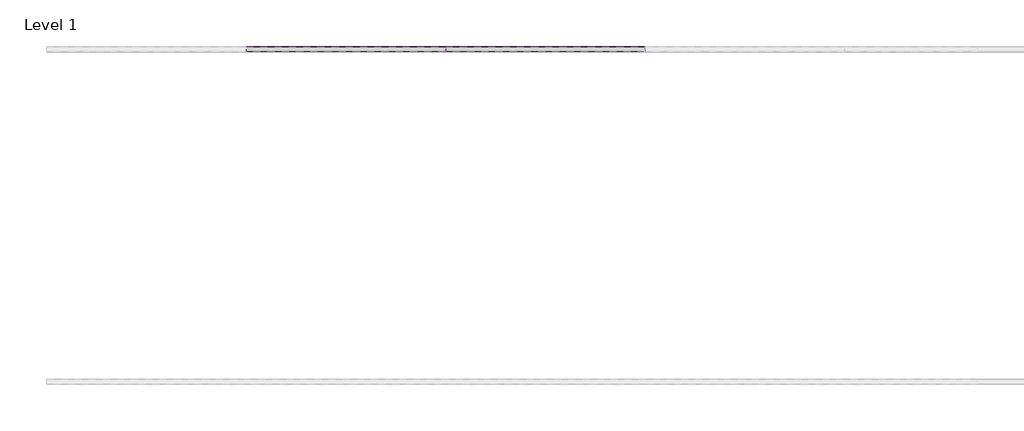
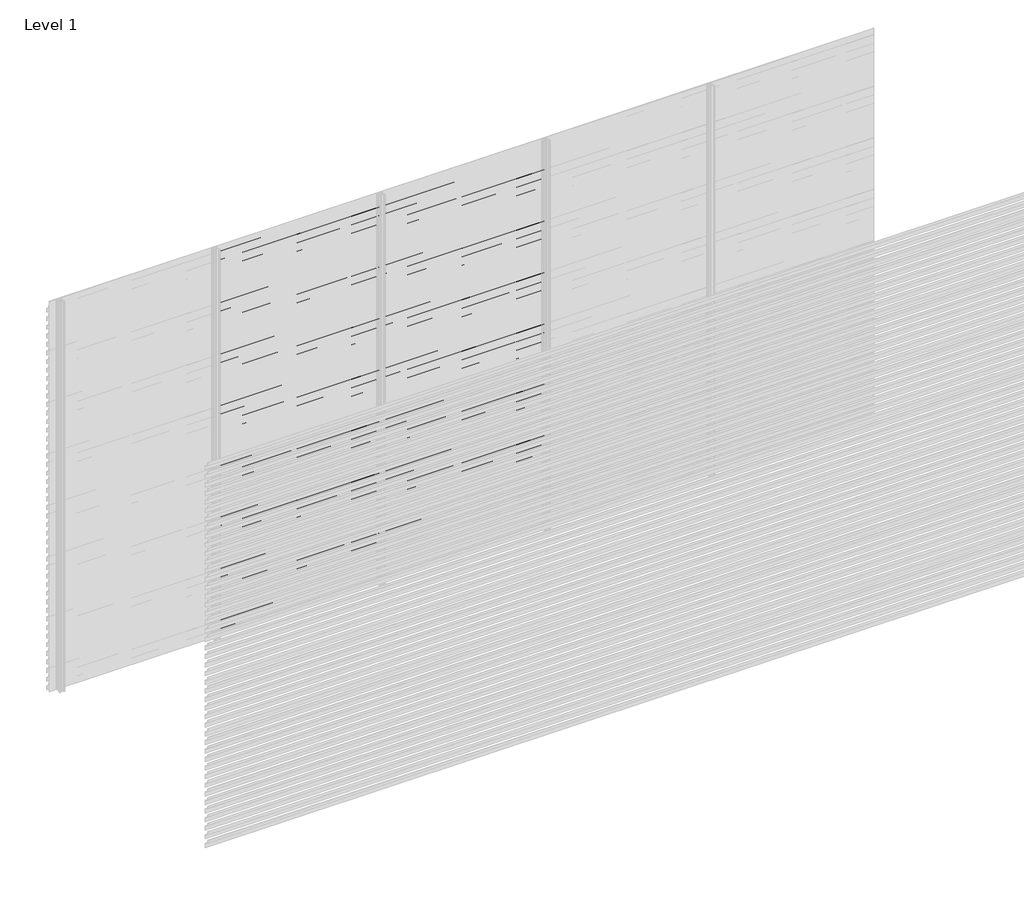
# One storey, part 56 of 540: 85 proxies.
"""IFC4 building model written with IfcOpenShell, lengths in millimetres."""

from ifc_helpers import new_model, si_unit, frame, origin, place, context, project, spatial, polyline, outline, extrude, element, save

model = new_model("IFC4")

# Units and contexts
model_context = context("Model", 3, world=origin())
ifc_project = project(units=[si_unit("LENGTHUNIT", "METRE", prefix="MILLI")], contexts=[model_context])

# Site, building, storey
site = spatial("IfcSite", under=ifc_project)
building = spatial("IfcBuilding", under=site)
storey = spatial("IfcBuildingStorey", under=building, Name="Level 1", Elevation=0.0)

# Proxies
placement = place(None, origin())
element("IfcBuildingElementProxy", 1, Name="Wall Sweeps", at=placement, inside=storey, context=model_context, shape_type="SweptSolid", body=[
    extrude(outline(polyline([(21552.8040136, 2930.0), (21552.8040136, 2897.0), (21551.5540136, 2897.7216933), (21551.5540136, 2929.2872415), (21521.8040136, 2950.0588647), (21521.8040136, 2970.0), (21523.0540136, 2970.0), (21523.0540136, 2950.7716232), (21552.8040136, 2930.0)])), frame((46166.6208097, 0.0, 0.0), z_axis=(1.0, 0.0, 0.0), x_axis=(0.0, 1.0, 0.0)), (0.0, 0.0, 1.0), 1200.0),
])
element("IfcBuildingElementProxy", 2, Name="Wall Sweeps", at=placement, inside=storey, context=model_context, shape_type="SweptSolid", body=[
    extrude(outline(polyline([(21552.8040136, 2864.0), (21552.8040136, 2831.0), (21551.5540136, 2831.7216933), (21551.5540136, 2863.2872415), (21521.8040136, 2884.0588647), (21521.8040136, 2904.0), (21523.0540136, 2904.0), (21523.0540136, 2884.7716232), (21552.8040136, 2864.0)])), frame((46166.6208097, 0.0, 0.0), z_axis=(1.0, 0.0, 0.0), x_axis=(0.0, 1.0, 0.0)), (0.0, 0.0, 1.0), 1200.0),
])
element("IfcBuildingElementProxy", 3, Name="Wall Sweeps", at=placement, inside=storey, context=model_context, shape_type="SweptSolid", body=[
    extrude(outline(polyline([(21552.8040136, 2798.0), (21552.8040136, 2765.0), (21551.5540136, 2765.7216933), (21551.5540136, 2797.2872415), (21521.8040136, 2818.0588647), (21521.8040136, 2838.0), (21523.0540136, 2838.0), (21523.0540136, 2818.7716232), (21552.8040136, 2798.0)])), frame((46166.6208097, 0.0, 0.0), z_axis=(1.0, 0.0, 0.0), x_axis=(0.0, 1.0, 0.0)), (0.0, 0.0, 1.0), 1200.0),
])
element("IfcBuildingElementProxy", 4, Name="Wall Sweeps", at=placement, inside=storey, context=model_context, shape_type="SweptSolid", body=[
    extrude(outline(polyline([(21552.8040136, 2732.0), (21552.8040136, 2699.0), (21551.5540136, 2699.7216933), (21551.5540136, 2731.2872415), (21521.8040136, 2752.0588647), (21521.8040136, 2772.0), (21523.0540136, 2772.0), (21523.0540136, 2752.7716232), (21552.8040136, 2732.0)])), frame((46166.6208097, 0.0, 0.0), z_axis=(1.0, 0.0, 0.0), x_axis=(0.0, 1.0, 0.0)), (0.0, 0.0, 1.0), 1200.0),
])
element("IfcBuildingElementProxy", 5, Name="Wall Sweeps", at=placement, inside=storey, context=model_context, shape_type="SweptSolid", body=[
    extrude(outline(polyline([(21552.8040136, 2666.0), (21552.8040136, 2633.0), (21551.5540136, 2633.7216933), (21551.5540136, 2665.2872415), (21521.8040136, 2686.0588647), (21521.8040136, 2706.0), (21523.0540136, 2706.0), (21523.0540136, 2686.7716232), (21552.8040136, 2666.0)])), frame((46166.6208097, 0.0, 0.0), z_axis=(1.0, 0.0, 0.0), x_axis=(0.0, 1.0, 0.0)), (0.0, 0.0, 1.0), 1200.0),
])
element("IfcBuildingElementProxy", 6, Name="Wall Sweeps", at=placement, inside=storey, context=model_context, shape_type="SweptSolid", body=[
    extrude(outline(polyline([(21552.8040136, 2600.0), (21552.8040136, 2567.0), (21551.5540136, 2567.7216933), (21551.5540136, 2599.2872415), (21521.8040136, 2620.0588647), (21521.8040136, 2640.0), (21523.0540136, 2640.0), (21523.0540136, 2620.7716232), (21552.8040136, 2600.0)])), frame((46166.6208097, 0.0, 0.0), z_axis=(1.0, 0.0, 0.0), x_axis=(0.0, 1.0, 0.0)), (0.0, 0.0, 1.0), 1200.0),
])
element("IfcBuildingElementProxy", 7, Name="Wall Sweeps", at=placement, inside=storey, context=model_context, shape_type="SweptSolid", body=[
    extrude(outline(polyline([(21552.8040136, 2534.0), (21552.8040136, 2501.0), (21551.5540136, 2501.7216933), (21551.5540136, 2533.2872415), (21521.8040136, 2554.0588647), (21521.8040136, 2574.0), (21523.0540136, 2574.0), (21523.0540136, 2554.7716232), (21552.8040136, 2534.0)])), frame((46166.6208097, 0.0, 0.0), z_axis=(1.0, 0.0, 0.0), x_axis=(0.0, 1.0, 0.0)), (0.0, 0.0, 1.0), 1200.0),
])
element("IfcBuildingElementProxy", 8, Name="Wall Sweeps", at=placement, inside=storey, context=model_context, shape_type="SweptSolid", body=[
    extrude(outline(polyline([(21552.8040136, 2468.0), (21552.8040136, 2435.0), (21551.5540136, 2435.7216933), (21551.5540136, 2467.2872415), (21521.8040136, 2488.0588647), (21521.8040136, 2508.0), (21523.0540136, 2508.0), (21523.0540136, 2488.7716232), (21552.8040136, 2468.0)])), frame((46166.6208097, 0.0, 0.0), z_axis=(1.0, 0.0, 0.0), x_axis=(0.0, 1.0, 0.0)), (0.0, 0.0, 1.0), 1200.0),
])
element("IfcBuildingElementProxy", 9, Name="Wall Sweeps", at=placement, inside=storey, context=model_context, shape_type="SweptSolid", body=[
    extrude(outline(polyline([(21552.8040136, 2402.0), (21552.8040136, 2369.0), (21551.5540136, 2369.7216933), (21551.5540136, 2401.2872415), (21521.8040136, 2422.0588647), (21521.8040136, 2442.0), (21523.0540136, 2442.0), (21523.0540136, 2422.7716232), (21552.8040136, 2402.0)])), frame((46166.6208097, 0.0, 0.0), z_axis=(1.0, 0.0, 0.0), x_axis=(0.0, 1.0, 0.0)), (0.0, 0.0, 1.0), 1200.0),
])
element("IfcBuildingElementProxy", 10, Name="Wall Sweeps", at=placement, inside=storey, context=model_context, shape_type="SweptSolid", body=[
    extrude(outline(polyline([(21552.8040136, 2336.0), (21552.8040136, 2303.0), (21551.5540136, 2303.7216933), (21551.5540136, 2335.2872415), (21521.8040136, 2356.0588647), (21521.8040136, 2376.0), (21523.0540136, 2376.0), (21523.0540136, 2356.7716232), (21552.8040136, 2336.0)])), frame((46166.6208097, 0.0, 0.0), z_axis=(1.0, 0.0, 0.0), x_axis=(0.0, 1.0, 0.0)), (0.0, 0.0, 1.0), 1200.0),
])
element("IfcBuildingElementProxy", 11, Name="Wall Sweeps", at=placement, inside=storey, context=model_context, shape_type="SweptSolid", body=[
    extrude(outline(polyline([(21552.8040136, 2270.0), (21552.8040136, 2237.0), (21551.5540136, 2237.7216933), (21551.5540136, 2269.2872415), (21521.8040136, 2290.0588647), (21521.8040136, 2310.0), (21523.0540136, 2310.0), (21523.0540136, 2290.7716232), (21552.8040136, 2270.0)])), frame((46166.6208097, 0.0, 0.0), z_axis=(1.0, 0.0, 0.0), x_axis=(0.0, 1.0, 0.0)), (0.0, 0.0, 1.0), 1200.0),
])
element("IfcBuildingElementProxy", 12, Name="Wall Sweeps", at=placement, inside=storey, context=model_context, shape_type="SweptSolid", body=[
    extrude(outline(polyline([(21552.8040136, 2204.0), (21552.8040136, 2171.0), (21551.5540136, 2171.7216933), (21551.5540136, 2203.2872415), (21521.8040136, 2224.0588647), (21521.8040136, 2244.0), (21523.0540136, 2244.0), (21523.0540136, 2224.7716232), (21552.8040136, 2204.0)])), frame((46166.6208097, 0.0, 0.0), z_axis=(1.0, 0.0, 0.0), x_axis=(0.0, 1.0, 0.0)), (0.0, 0.0, 1.0), 1200.0),
])
element("IfcBuildingElementProxy", 13, Name="Wall Sweeps", at=placement, inside=storey, context=model_context, shape_type="SweptSolid", body=[
    extrude(outline(polyline([(21552.8040136, 2138.0), (21552.8040136, 2105.0), (21551.5540136, 2105.7216933), (21551.5540136, 2137.2872415), (21521.8040136, 2158.0588647), (21521.8040136, 2178.0), (21523.0540136, 2178.0), (21523.0540136, 2158.7716232), (21552.8040136, 2138.0)])), frame((46166.6208097, 0.0, 0.0), z_axis=(1.0, 0.0, 0.0), x_axis=(0.0, 1.0, 0.0)), (0.0, 0.0, 1.0), 1200.0),
])
element("IfcBuildingElementProxy", 14, Name="Wall Sweeps", at=placement, inside=storey, context=model_context, shape_type="SweptSolid", body=[
    extrude(outline(polyline([(21552.8040136, 2072.0), (21552.8040136, 2039.0), (21551.5540136, 2039.7216933), (21551.5540136, 2071.2872415), (21521.8040136, 2092.0588647), (21521.8040136, 2112.0), (21523.0540136, 2112.0), (21523.0540136, 2092.7716232), (21552.8040136, 2072.0)])), frame((46166.6208097, 0.0, 0.0), z_axis=(1.0, 0.0, 0.0), x_axis=(0.0, 1.0, 0.0)), (0.0, 0.0, 1.0), 1200.0),
])
element("IfcBuildingElementProxy", 15, Name="Wall Sweeps", at=placement, inside=storey, context=model_context, shape_type="SweptSolid", body=[
    extrude(outline(polyline([(21552.8040136, 2006.0), (21552.8040136, 1973.0), (21551.5540136, 1973.7216933), (21551.5540136, 2005.2872415), (21521.8040136, 2026.0588647), (21521.8040136, 2046.0), (21523.0540136, 2046.0), (21523.0540136, 2026.7716232), (21552.8040136, 2006.0)])), frame((46166.6208097, 0.0, 0.0), z_axis=(1.0, 0.0, 0.0), x_axis=(0.0, 1.0, 0.0)), (0.0, 0.0, 1.0), 1200.0),
])
element("IfcBuildingElementProxy", 16, Name="Wall Sweeps", at=placement, inside=storey, context=model_context, shape_type="SweptSolid", body=[
    extrude(outline(polyline([(21552.8040136, 1940.0), (21552.8040136, 1907.0), (21551.5540136, 1907.7216933), (21551.5540136, 1939.2872415), (21521.8040136, 1960.0588647), (21521.8040136, 1980.0), (21523.0540136, 1980.0), (21523.0540136, 1960.7716232), (21552.8040136, 1940.0)])), frame((46166.6208097, 0.0, 0.0), z_axis=(1.0, 0.0, 0.0), x_axis=(0.0, 1.0, 0.0)), (0.0, 0.0, 1.0), 1200.0),
])
element("IfcBuildingElementProxy", 17, Name="Wall Sweeps", at=placement, inside=storey, context=model_context, shape_type="SweptSolid", body=[
    extrude(outline(polyline([(21552.8040136, 1874.0), (21552.8040136, 1841.0), (21551.5540136, 1841.7216933), (21551.5540136, 1873.2872415), (21521.8040136, 1894.0588647), (21521.8040136, 1914.0), (21523.0540136, 1914.0), (21523.0540136, 1894.7716232), (21552.8040136, 1874.0)])), frame((46166.6208097, 0.0, 0.0), z_axis=(1.0, 0.0, 0.0), x_axis=(0.0, 1.0, 0.0)), (0.0, 0.0, 1.0), 1200.0),
])
element("IfcBuildingElementProxy", 18, Name="Wall Sweeps", at=placement, inside=storey, context=model_context, shape_type="SweptSolid", body=[
    extrude(outline(polyline([(21552.8040136, 1808.0), (21552.8040136, 1775.0), (21551.5540136, 1775.7216933), (21551.5540136, 1807.2872415), (21521.8040136, 1828.0588647), (21521.8040136, 1848.0), (21523.0540136, 1848.0), (21523.0540136, 1828.7716232), (21552.8040136, 1808.0)])), frame((46166.6208097, 0.0, 0.0), z_axis=(1.0, 0.0, 0.0), x_axis=(0.0, 1.0, 0.0)), (0.0, 0.0, 1.0), 1200.0),
])
element("IfcBuildingElementProxy", 19, Name="Wall Sweeps", at=placement, inside=storey, context=model_context, shape_type="SweptSolid", body=[
    extrude(outline(polyline([(21552.8040136, 1742.0), (21552.8040136, 1709.0), (21551.5540136, 1709.7216933), (21551.5540136, 1741.2872415), (21521.8040136, 1762.0588647), (21521.8040136, 1782.0), (21523.0540136, 1782.0), (21523.0540136, 1762.7716232), (21552.8040136, 1742.0)])), frame((46166.6208097, 0.0, 0.0), z_axis=(1.0, 0.0, 0.0), x_axis=(0.0, 1.0, 0.0)), (0.0, 0.0, 1.0), 1200.0),
])
element("IfcBuildingElementProxy", 20, Name="Wall Sweeps", at=placement, inside=storey, context=model_context, shape_type="SweptSolid", body=[
    extrude(outline(polyline([(21552.8040136, 1676.0), (21552.8040136, 1643.0), (21551.5540136, 1643.7216933), (21551.5540136, 1675.2872415), (21521.8040136, 1696.0588647), (21521.8040136, 1716.0), (21523.0540136, 1716.0), (21523.0540136, 1696.7716232), (21552.8040136, 1676.0)])), frame((46166.6208097, 0.0, 0.0), z_axis=(1.0, 0.0, 0.0), x_axis=(0.0, 1.0, 0.0)), (0.0, 0.0, 1.0), 1200.0),
])
element("IfcBuildingElementProxy", 21, Name="Wall Sweeps", at=placement, inside=storey, context=model_context, shape_type="SweptSolid", body=[
    extrude(outline(polyline([(21552.8040136, 1610.0), (21552.8040136, 1577.0), (21551.5540136, 1577.7216933), (21551.5540136, 1609.2872415), (21521.8040136, 1630.0588647), (21521.8040136, 1650.0), (21523.0540136, 1650.0), (21523.0540136, 1630.7716232), (21552.8040136, 1610.0)])), frame((46166.6208097, 0.0, 0.0), z_axis=(1.0, 0.0, 0.0), x_axis=(0.0, 1.0, 0.0)), (0.0, 0.0, 1.0), 1200.0),
])
element("IfcBuildingElementProxy", 22, Name="Wall Sweeps", at=placement, inside=storey, context=model_context, shape_type="SweptSolid", body=[
    extrude(outline(polyline([(21552.8040136, 1544.0), (21552.8040136, 1511.0), (21551.5540136, 1511.7216933), (21551.5540136, 1543.2872415), (21521.8040136, 1564.0588647), (21521.8040136, 1584.0), (21523.0540136, 1584.0), (21523.0540136, 1564.7716232), (21552.8040136, 1544.0)])), frame((46166.6208097, 0.0, 0.0), z_axis=(1.0, 0.0, 0.0), x_axis=(0.0, 1.0, 0.0)), (0.0, 0.0, 1.0), 1200.0),
])
element("IfcBuildingElementProxy", 23, Name="Wall Sweeps", at=placement, inside=storey, context=model_context, shape_type="SweptSolid", body=[
    extrude(outline(polyline([(21552.8040136, 1478.0), (21552.8040136, 1445.0), (21551.5540136, 1445.7216933), (21551.5540136, 1477.2872415), (21521.8040136, 1498.0588647), (21521.8040136, 1518.0), (21523.0540136, 1518.0), (21523.0540136, 1498.7716232), (21552.8040136, 1478.0)])), frame((46166.6208097, 0.0, 0.0), z_axis=(1.0, 0.0, 0.0), x_axis=(0.0, 1.0, 0.0)), (0.0, 0.0, 1.0), 1200.0),
])
element("IfcBuildingElementProxy", 24, Name="Wall Sweeps", at=placement, inside=storey, context=model_context, shape_type="SweptSolid", body=[
    extrude(outline(polyline([(21552.8040136, 1412.0), (21552.8040136, 1379.0), (21551.5540136, 1379.7216933), (21551.5540136, 1411.2872415), (21521.8040136, 1432.0588647), (21521.8040136, 1452.0), (21523.0540136, 1452.0), (21523.0540136, 1432.7716232), (21552.8040136, 1412.0)])), frame((46166.6208097, 0.0, 0.0), z_axis=(1.0, 0.0, 0.0), x_axis=(0.0, 1.0, 0.0)), (0.0, 0.0, 1.0), 1200.0),
])
element("IfcBuildingElementProxy", 25, Name="Wall Sweeps", at=placement, inside=storey, context=model_context, shape_type="SweptSolid", body=[
    extrude(outline(polyline([(21552.8040136, 1346.0), (21552.8040136, 1313.0), (21551.5540136, 1313.7216933), (21551.5540136, 1345.2872415), (21521.8040136, 1366.0588647), (21521.8040136, 1386.0), (21523.0540136, 1386.0), (21523.0540136, 1366.7716232), (21552.8040136, 1346.0)])), frame((46166.6208097, 0.0, 0.0), z_axis=(1.0, 0.0, 0.0), x_axis=(0.0, 1.0, 0.0)), (0.0, 0.0, 1.0), 1200.0),
])
element("IfcBuildingElementProxy", 26, Name="Wall Sweeps", at=placement, inside=storey, context=model_context, shape_type="SweptSolid", body=[
    extrude(outline(polyline([(21552.8040136, 1280.0), (21552.8040136, 1247.0), (21551.5540136, 1247.7216933), (21551.5540136, 1279.2872415), (21521.8040136, 1300.0588647), (21521.8040136, 1320.0), (21523.0540136, 1320.0), (21523.0540136, 1300.7716232), (21552.8040136, 1280.0)])), frame((46166.6208097, 0.0, 0.0), z_axis=(1.0, 0.0, 0.0), x_axis=(0.0, 1.0, 0.0)), (0.0, 0.0, 1.0), 1200.0),
])
element("IfcBuildingElementProxy", 27, Name="Wall Sweeps", at=placement, inside=storey, context=model_context, shape_type="SweptSolid", body=[
    extrude(outline(polyline([(21552.8040136, 1214.0), (21552.8040136, 1181.0), (21551.5540136, 1181.7216933), (21551.5540136, 1213.2872415), (21521.8040136, 1234.0588647), (21521.8040136, 1254.0), (21523.0540136, 1254.0), (21523.0540136, 1234.7716232), (21552.8040136, 1214.0)])), frame((46166.6208097, 0.0, 0.0), z_axis=(1.0, 0.0, 0.0), x_axis=(0.0, 1.0, 0.0)), (0.0, 0.0, 1.0), 1200.0),
])
element("IfcBuildingElementProxy", 28, Name="Wall Sweeps", at=placement, inside=storey, context=model_context, shape_type="SweptSolid", body=[
    extrude(outline(polyline([(21552.8040136, 1148.0), (21552.8040136, 1115.0), (21551.5540136, 1115.7216933), (21551.5540136, 1147.2872415), (21521.8040136, 1168.0588647), (21521.8040136, 1188.0), (21523.0540136, 1188.0), (21523.0540136, 1168.7716232), (21552.8040136, 1148.0)])), frame((46166.6208097, 0.0, 0.0), z_axis=(1.0, 0.0, 0.0), x_axis=(0.0, 1.0, 0.0)), (0.0, 0.0, 1.0), 1200.0),
])
element("IfcBuildingElementProxy", 29, Name="Wall Sweeps", at=placement, inside=storey, context=model_context, shape_type="SweptSolid", body=[
    extrude(outline(polyline([(21552.8040136, 1082.0), (21552.8040136, 1049.0), (21551.5540136, 1049.7216933), (21551.5540136, 1081.2872415), (21521.8040136, 1102.0588647), (21521.8040136, 1122.0), (21523.0540136, 1122.0), (21523.0540136, 1102.7716232), (21552.8040136, 1082.0)])), frame((46166.6208097, 0.0, 0.0), z_axis=(1.0, 0.0, 0.0), x_axis=(0.0, 1.0, 0.0)), (0.0, 0.0, 1.0), 1200.0),
])
element("IfcBuildingElementProxy", 30, Name="Wall Sweeps", at=placement, inside=storey, context=model_context, shape_type="SweptSolid", body=[
    extrude(outline(polyline([(21552.8040136, 1016.0), (21552.8040136, 983.0), (21551.5540136, 983.7216933), (21551.5540136, 1015.2872415), (21521.8040136, 1036.0588647), (21521.8040136, 1056.0), (21523.0540136, 1056.0), (21523.0540136, 1036.7716232), (21552.8040136, 1016.0)])), frame((46166.6208097, 0.0, 0.0), z_axis=(1.0, 0.0, 0.0), x_axis=(0.0, 1.0, 0.0)), (0.0, 0.0, 1.0), 1200.0),
])
element("IfcBuildingElementProxy", 31, Name="Wall Sweeps", at=placement, inside=storey, context=model_context, shape_type="SweptSolid", body=[
    extrude(outline(polyline([(21552.8040136, 950.0), (21552.8040136, 917.0), (21551.5540136, 917.7216933), (21551.5540136, 949.2872415), (21521.8040136, 970.0588647), (21521.8040136, 990.0), (21523.0540136, 990.0), (21523.0540136, 970.7716232), (21552.8040136, 950.0)])), frame((46166.6208097, 0.0, 0.0), z_axis=(1.0, 0.0, 0.0), x_axis=(0.0, 1.0, 0.0)), (0.0, 0.0, 1.0), 1200.0),
])
element("IfcBuildingElementProxy", 32, Name="Wall Sweeps", at=placement, inside=storey, context=model_context, shape_type="SweptSolid", body=[
    extrude(outline(polyline([(21552.8040136, 884.0), (21552.8040136, 851.0), (21551.5540136, 851.7216933), (21551.5540136, 883.2872415), (21521.8040136, 904.0588647), (21521.8040136, 924.0), (21523.0540136, 924.0), (21523.0540136, 904.7716232), (21552.8040136, 884.0)])), frame((46166.6208097, 0.0, 0.0), z_axis=(1.0, 0.0, 0.0), x_axis=(0.0, 1.0, 0.0)), (0.0, 0.0, 1.0), 1200.0),
])
element("IfcBuildingElementProxy", 33, Name="Wall Sweeps", at=placement, inside=storey, context=model_context, shape_type="SweptSolid", body=[
    extrude(outline(polyline([(21552.8040136, 818.0), (21552.8040136, 785.0), (21551.5540136, 785.7216933), (21551.5540136, 817.2872415), (21521.8040136, 838.0588647), (21521.8040136, 858.0), (21523.0540136, 858.0), (21523.0540136, 838.7716232), (21552.8040136, 818.0)])), frame((46166.6208097, 0.0, 0.0), z_axis=(1.0, 0.0, 0.0), x_axis=(0.0, 1.0, 0.0)), (0.0, 0.0, 1.0), 1200.0),
])
element("IfcBuildingElementProxy", 34, Name="Wall Sweeps", at=placement, inside=storey, context=model_context, shape_type="SweptSolid", body=[
    extrude(outline(polyline([(21552.8040136, 752.0), (21552.8040136, 719.0), (21551.5540136, 719.7216933), (21551.5540136, 751.2872415), (21521.8040136, 772.0588647), (21521.8040136, 792.0), (21523.0540136, 792.0), (21523.0540136, 772.7716232), (21552.8040136, 752.0)])), frame((46166.6208097, 0.0, 0.0), z_axis=(1.0, 0.0, 0.0), x_axis=(0.0, 1.0, 0.0)), (0.0, 0.0, 1.0), 1200.0),
])
element("IfcBuildingElementProxy", 35, Name="Wall Sweeps", at=placement, inside=storey, context=model_context, shape_type="SweptSolid", body=[
    extrude(outline(polyline([(21552.8040136, 686.0), (21552.8040136, 653.0), (21551.5540136, 653.7216933), (21551.5540136, 685.2872415), (21521.8040136, 706.0588647), (21521.8040136, 726.0), (21523.0540136, 726.0), (21523.0540136, 706.7716232), (21552.8040136, 686.0)])), frame((46166.6208097, 0.0, 0.0), z_axis=(1.0, 0.0, 0.0), x_axis=(0.0, 1.0, 0.0)), (0.0, 0.0, 1.0), 1200.0),
])
element("IfcBuildingElementProxy", 36, Name="Wall Sweeps", at=placement, inside=storey, context=model_context, shape_type="SweptSolid", body=[
    extrude(outline(polyline([(21552.8040136, 620.0), (21552.8040136, 587.0), (21551.5540136, 587.7216933), (21551.5540136, 619.2872415), (21521.8040136, 640.0588647), (21521.8040136, 660.0), (21523.0540136, 660.0), (21523.0540136, 640.7716232), (21552.8040136, 620.0)])), frame((46166.6208097, 0.0, 0.0), z_axis=(1.0, 0.0, 0.0), x_axis=(0.0, 1.0, 0.0)), (0.0, 0.0, 1.0), 1200.0),
])
element("IfcBuildingElementProxy", 37, Name="Wall Sweeps", at=placement, inside=storey, context=model_context, shape_type="SweptSolid", body=[
    extrude(outline(polyline([(21552.8040136, 554.0), (21552.8040136, 521.0), (21551.5540136, 521.7216933), (21551.5540136, 553.2872415), (21521.8040136, 574.0588647), (21521.8040136, 594.0), (21523.0540136, 594.0), (21523.0540136, 574.7716232), (21552.8040136, 554.0)])), frame((46166.6208097, 0.0, 0.0), z_axis=(1.0, 0.0, 0.0), x_axis=(0.0, 1.0, 0.0)), (0.0, 0.0, 1.0), 1200.0),
])
element("IfcBuildingElementProxy", 38, Name="Wall Sweeps", at=placement, inside=storey, context=model_context, shape_type="SweptSolid", body=[
    extrude(outline(polyline([(21552.8040136, 488.0), (21552.8040136, 455.0), (21551.5540136, 455.7216933), (21551.5540136, 487.2872415), (21521.8040136, 508.0588647), (21521.8040136, 528.0), (21523.0540136, 528.0), (21523.0540136, 508.7716232), (21552.8040136, 488.0)])), frame((46166.6208097, 0.0, 0.0), z_axis=(1.0, 0.0, 0.0), x_axis=(0.0, 1.0, 0.0)), (0.0, 0.0, 1.0), 1200.0),
])
element("IfcBuildingElementProxy", 39, Name="Wall Sweeps", at=placement, inside=storey, context=model_context, shape_type="SweptSolid", body=[
    extrude(outline(polyline([(21552.8040136, 422.0), (21552.8040136, 389.0), (21551.5540136, 389.7216933), (21551.5540136, 421.2872415), (21521.8040136, 442.0588647), (21521.8040136, 462.0), (21523.0540136, 462.0), (21523.0540136, 442.7716232), (21552.8040136, 422.0)])), frame((46166.6208097, 0.0, 0.0), z_axis=(1.0, 0.0, 0.0), x_axis=(0.0, 1.0, 0.0)), (0.0, 0.0, 1.0), 1200.0),
])
element("IfcBuildingElementProxy", 40, Name="Wall Sweeps", at=placement, inside=storey, context=model_context, shape_type="SweptSolid", body=[
    extrude(outline(polyline([(21552.8040136, 356.0), (21552.8040136, 323.0), (21551.5540136, 323.7216933), (21551.5540136, 355.2872415), (21521.8040136, 376.0588647), (21521.8040136, 396.0), (21523.0540136, 396.0), (21523.0540136, 376.7716232), (21552.8040136, 356.0)])), frame((46166.6208097, 0.0, 0.0), z_axis=(1.0, 0.0, 0.0), x_axis=(0.0, 1.0, 0.0)), (0.0, 0.0, 1.0), 1200.0),
])
element("IfcBuildingElementProxy", 41, Name="Wall Sweeps", at=placement, inside=storey, context=model_context, shape_type="SweptSolid", body=[
    extrude(outline(polyline([(21552.8040136, 290.0), (21552.8040136, 257.0), (21551.5540136, 257.7216933), (21551.5540136, 289.2872415), (21521.8040136, 310.0588647), (21521.8040136, 330.0), (21523.0540136, 330.0), (21523.0540136, 310.7716232), (21552.8040136, 290.0)])), frame((46166.6208097, 0.0, 0.0), z_axis=(1.0, 0.0, 0.0), x_axis=(0.0, 1.0, 0.0)), (0.0, 0.0, 1.0), 1200.0),
])
element("IfcBuildingElementProxy", 42, Name="Wall Sweeps", at=placement, inside=storey, context=model_context, shape_type="SweptSolid", body=[
    extrude(outline(polyline([(21552.8040136, 224.0), (21552.8040136, 191.0), (21551.5540136, 191.7216933), (21551.5540136, 223.2872415), (21521.8040136, 244.0588647), (21521.8040136, 264.0), (21523.0540136, 264.0), (21523.0540136, 244.7716232), (21552.8040136, 224.0)])), frame((46166.6208097, 0.0, 0.0), z_axis=(1.0, 0.0, 0.0), x_axis=(0.0, 1.0, 0.0)), (0.0, 0.0, 1.0), 1200.0),
])
element("IfcBuildingElementProxy", 43, Name="Wall Sweeps", at=placement, inside=storey, context=model_context, shape_type="SweptSolid", body=[
    extrude(outline(polyline([(21552.8040136, 158.0), (21552.8040136, 125.0), (21551.5540136, 125.7216933), (21551.5540136, 157.2872415), (21521.8040136, 178.0588647), (21521.8040136, 198.0), (21523.0540136, 198.0), (21523.0540136, 178.7716232), (21552.8040136, 158.0)])), frame((46166.6208097, 0.0, 0.0), z_axis=(1.0, 0.0, 0.0), x_axis=(0.0, 1.0, 0.0)), (0.0, 0.0, 1.0), 1200.0),
])
element("IfcBuildingElementProxy", 44, Name="Wall Sweeps", at=placement, inside=storey, context=model_context, shape_type="SweptSolid", body=[
    extrude(outline(polyline([(21552.8040136, 92.0), (21552.8040136, 59.0), (21551.5540136, 59.7216933), (21551.5540136, 91.2872415), (21521.8040136, 112.0588647), (21521.8040136, 132.0), (21523.0540136, 132.0), (21523.0540136, 112.7716232), (21552.8040136, 92.0)])), frame((46166.6208097, 0.0, 0.0), z_axis=(1.0, 0.0, 0.0), x_axis=(0.0, 1.0, 0.0)), (0.0, 0.0, 1.0), 1200.0),
])
element("IfcBuildingElementProxy", 45, Name="Wall Sweeps", at=placement, inside=storey, context=model_context, shape_type="SweptSolid", body=[
    extrude(outline(polyline([(21552.8040136, 26.0), (21552.8040136, -7.0), (21551.5540136, -6.2783067), (21551.5540136, 25.2872415), (21521.8040136, 46.0588647), (21521.8040136, 66.0), (21523.0540136, 66.0), (21523.0540136, 46.7716232), (21552.8040136, 26.0)])), frame((46166.6208097, 0.0, 0.0), z_axis=(1.0, 0.0, 0.0), x_axis=(0.0, 1.0, 0.0)), (0.0, 0.0, 1.0), 1200.0),
])
element("IfcBuildingElementProxy", 46, Name="Wall Sweeps", at=placement, inside=storey, context=model_context, shape_type="SweptSolid", body=[
    extrude(outline(polyline([(21552.8040136, 2930.0), (21552.8040136, 2897.0), (21551.5540136, 2897.7216933), (21551.5540136, 2929.2872415), (21521.8040136, 2950.0588647), (21521.8040136, 2970.0), (21523.0540136, 2970.0), (21523.0540136, 2950.7716232), (21552.8040136, 2930.0)])), frame((47366.6208097, 0.0, 0.0), z_axis=(1.0, 0.0, 0.0), x_axis=(0.0, 1.0, 0.0)), (0.0, 0.0, 1.0), 1200.0),
])
element("IfcBuildingElementProxy", 47, Name="Wall Sweeps", at=placement, inside=storey, context=model_context, shape_type="SweptSolid", body=[
    extrude(outline(polyline([(21552.8040136, 2864.0), (21552.8040136, 2831.0), (21551.5540136, 2831.7216933), (21551.5540136, 2863.2872415), (21521.8040136, 2884.0588647), (21521.8040136, 2904.0), (21523.0540136, 2904.0), (21523.0540136, 2884.7716232), (21552.8040136, 2864.0)])), frame((47366.6208097, 0.0, 0.0), z_axis=(1.0, 0.0, 0.0), x_axis=(0.0, 1.0, 0.0)), (0.0, 0.0, 1.0), 1200.0),
])
element("IfcBuildingElementProxy", 48, Name="Wall Sweeps", at=placement, inside=storey, context=model_context, shape_type="SweptSolid", body=[
    extrude(outline(polyline([(21552.8040136, 2798.0), (21552.8040136, 2765.0), (21551.5540136, 2765.7216933), (21551.5540136, 2797.2872415), (21521.8040136, 2818.0588647), (21521.8040136, 2838.0), (21523.0540136, 2838.0), (21523.0540136, 2818.7716232), (21552.8040136, 2798.0)])), frame((47366.6208097, 0.0, 0.0), z_axis=(1.0, 0.0, 0.0), x_axis=(0.0, 1.0, 0.0)), (0.0, 0.0, 1.0), 1200.0),
])
element("IfcBuildingElementProxy", 49, Name="Wall Sweeps", at=placement, inside=storey, context=model_context, shape_type="SweptSolid", body=[
    extrude(outline(polyline([(21552.8040136, 2732.0), (21552.8040136, 2699.0), (21551.5540136, 2699.7216933), (21551.5540136, 2731.2872415), (21521.8040136, 2752.0588647), (21521.8040136, 2772.0), (21523.0540136, 2772.0), (21523.0540136, 2752.7716232), (21552.8040136, 2732.0)])), frame((47366.6208097, 0.0, 0.0), z_axis=(1.0, 0.0, 0.0), x_axis=(0.0, 1.0, 0.0)), (0.0, 0.0, 1.0), 1200.0),
])
element("IfcBuildingElementProxy", 50, Name="Wall Sweeps", at=placement, inside=storey, context=model_context, shape_type="SweptSolid", body=[
    extrude(outline(polyline([(21552.8040136, 2666.0), (21552.8040136, 2633.0), (21551.5540136, 2633.7216933), (21551.5540136, 2665.2872415), (21521.8040136, 2686.0588647), (21521.8040136, 2706.0), (21523.0540136, 2706.0), (21523.0540136, 2686.7716232), (21552.8040136, 2666.0)])), frame((47366.6208097, 0.0, 0.0), z_axis=(1.0, 0.0, 0.0), x_axis=(0.0, 1.0, 0.0)), (0.0, 0.0, 1.0), 1200.0),
])
element("IfcBuildingElementProxy", 51, Name="Wall Sweeps", at=placement, inside=storey, context=model_context, shape_type="SweptSolid", body=[
    extrude(outline(polyline([(21552.8040136, 2600.0), (21552.8040136, 2567.0), (21551.5540136, 2567.7216933), (21551.5540136, 2599.2872415), (21521.8040136, 2620.0588647), (21521.8040136, 2640.0), (21523.0540136, 2640.0), (21523.0540136, 2620.7716232), (21552.8040136, 2600.0)])), frame((47366.6208097, 0.0, 0.0), z_axis=(1.0, 0.0, 0.0), x_axis=(0.0, 1.0, 0.0)), (0.0, 0.0, 1.0), 1200.0),
])
element("IfcBuildingElementProxy", 52, Name="Wall Sweeps", at=placement, inside=storey, context=model_context, shape_type="SweptSolid", body=[
    extrude(outline(polyline([(21552.8040136, 2534.0), (21552.8040136, 2501.0), (21551.5540136, 2501.7216933), (21551.5540136, 2533.2872415), (21521.8040136, 2554.0588647), (21521.8040136, 2574.0), (21523.0540136, 2574.0), (21523.0540136, 2554.7716232), (21552.8040136, 2534.0)])), frame((47366.6208097, 0.0, 0.0), z_axis=(1.0, 0.0, 0.0), x_axis=(0.0, 1.0, 0.0)), (0.0, 0.0, 1.0), 1200.0),
])
element("IfcBuildingElementProxy", 53, Name="Wall Sweeps", at=placement, inside=storey, context=model_context, shape_type="SweptSolid", body=[
    extrude(outline(polyline([(21552.8040136, 2468.0), (21552.8040136, 2435.0), (21551.5540136, 2435.7216933), (21551.5540136, 2467.2872415), (21521.8040136, 2488.0588647), (21521.8040136, 2508.0), (21523.0540136, 2508.0), (21523.0540136, 2488.7716232), (21552.8040136, 2468.0)])), frame((47366.6208097, 0.0, 0.0), z_axis=(1.0, 0.0, 0.0), x_axis=(0.0, 1.0, 0.0)), (0.0, 0.0, 1.0), 1200.0),
])
element("IfcBuildingElementProxy", 54, Name="Wall Sweeps", at=placement, inside=storey, context=model_context, shape_type="SweptSolid", body=[
    extrude(outline(polyline([(21552.8040136, 2402.0), (21552.8040136, 2369.0), (21551.5540136, 2369.7216933), (21551.5540136, 2401.2872415), (21521.8040136, 2422.0588647), (21521.8040136, 2442.0), (21523.0540136, 2442.0), (21523.0540136, 2422.7716232), (21552.8040136, 2402.0)])), frame((47366.6208097, 0.0, 0.0), z_axis=(1.0, 0.0, 0.0), x_axis=(0.0, 1.0, 0.0)), (0.0, 0.0, 1.0), 1200.0),
])
element("IfcBuildingElementProxy", 55, Name="Wall Sweeps", at=placement, inside=storey, context=model_context, shape_type="SweptSolid", body=[
    extrude(outline(polyline([(21552.8040136, 2336.0), (21552.8040136, 2303.0), (21551.5540136, 2303.7216933), (21551.5540136, 2335.2872415), (21521.8040136, 2356.0588647), (21521.8040136, 2376.0), (21523.0540136, 2376.0), (21523.0540136, 2356.7716232), (21552.8040136, 2336.0)])), frame((47366.6208097, 0.0, 0.0), z_axis=(1.0, 0.0, 0.0), x_axis=(0.0, 1.0, 0.0)), (0.0, 0.0, 1.0), 1200.0),
])
element("IfcBuildingElementProxy", 56, Name="Wall Sweeps", at=placement, inside=storey, context=model_context, shape_type="SweptSolid", body=[
    extrude(outline(polyline([(21552.8040136, 2270.0), (21552.8040136, 2237.0), (21551.5540136, 2237.7216933), (21551.5540136, 2269.2872415), (21521.8040136, 2290.0588647), (21521.8040136, 2310.0), (21523.0540136, 2310.0), (21523.0540136, 2290.7716232), (21552.8040136, 2270.0)])), frame((47366.6208097, 0.0, 0.0), z_axis=(1.0, 0.0, 0.0), x_axis=(0.0, 1.0, 0.0)), (0.0, 0.0, 1.0), 1200.0),
])
element("IfcBuildingElementProxy", 57, Name="Wall Sweeps", at=placement, inside=storey, context=model_context, shape_type="SweptSolid", body=[
    extrude(outline(polyline([(21552.8040136, 2204.0), (21552.8040136, 2171.0), (21551.5540136, 2171.7216933), (21551.5540136, 2203.2872415), (21521.8040136, 2224.0588647), (21521.8040136, 2244.0), (21523.0540136, 2244.0), (21523.0540136, 2224.7716232), (21552.8040136, 2204.0)])), frame((47366.6208097, 0.0, 0.0), z_axis=(1.0, 0.0, 0.0), x_axis=(0.0, 1.0, 0.0)), (0.0, 0.0, 1.0), 1200.0),
])
element("IfcBuildingElementProxy", 58, Name="Wall Sweeps", at=placement, inside=storey, context=model_context, shape_type="SweptSolid", body=[
    extrude(outline(polyline([(21552.8040136, 2138.0), (21552.8040136, 2105.0), (21551.5540136, 2105.7216933), (21551.5540136, 2137.2872415), (21521.8040136, 2158.0588647), (21521.8040136, 2178.0), (21523.0540136, 2178.0), (21523.0540136, 2158.7716232), (21552.8040136, 2138.0)])), frame((47366.6208097, 0.0, 0.0), z_axis=(1.0, 0.0, 0.0), x_axis=(0.0, 1.0, 0.0)), (0.0, 0.0, 1.0), 1200.0),
])
element("IfcBuildingElementProxy", 59, Name="Wall Sweeps", at=placement, inside=storey, context=model_context, shape_type="SweptSolid", body=[
    extrude(outline(polyline([(21552.8040136, 2072.0), (21552.8040136, 2039.0), (21551.5540136, 2039.7216933), (21551.5540136, 2071.2872415), (21521.8040136, 2092.0588647), (21521.8040136, 2112.0), (21523.0540136, 2112.0), (21523.0540136, 2092.7716232), (21552.8040136, 2072.0)])), frame((47366.6208097, 0.0, 0.0), z_axis=(1.0, 0.0, 0.0), x_axis=(0.0, 1.0, 0.0)), (0.0, 0.0, 1.0), 1200.0),
])
element("IfcBuildingElementProxy", 60, Name="Wall Sweeps", at=placement, inside=storey, context=model_context, shape_type="SweptSolid", body=[
    extrude(outline(polyline([(21552.8040136, 2006.0), (21552.8040136, 1973.0), (21551.5540136, 1973.7216933), (21551.5540136, 2005.2872415), (21521.8040136, 2026.0588647), (21521.8040136, 2046.0), (21523.0540136, 2046.0), (21523.0540136, 2026.7716232), (21552.8040136, 2006.0)])), frame((47366.6208097, 0.0, 0.0), z_axis=(1.0, 0.0, 0.0), x_axis=(0.0, 1.0, 0.0)), (0.0, 0.0, 1.0), 1200.0),
])
element("IfcBuildingElementProxy", 61, Name="Wall Sweeps", at=placement, inside=storey, context=model_context, shape_type="SweptSolid", body=[
    extrude(outline(polyline([(21552.8040136, 1940.0), (21552.8040136, 1907.0), (21551.5540136, 1907.7216933), (21551.5540136, 1939.2872415), (21521.8040136, 1960.0588647), (21521.8040136, 1980.0), (21523.0540136, 1980.0), (21523.0540136, 1960.7716232), (21552.8040136, 1940.0)])), frame((47366.6208097, 0.0, 0.0), z_axis=(1.0, 0.0, 0.0), x_axis=(0.0, 1.0, 0.0)), (0.0, 0.0, 1.0), 1200.0),
])
element("IfcBuildingElementProxy", 62, Name="Wall Sweeps", at=placement, inside=storey, context=model_context, shape_type="SweptSolid", body=[
    extrude(outline(polyline([(21552.8040136, 1874.0), (21552.8040136, 1841.0), (21551.5540136, 1841.7216933), (21551.5540136, 1873.2872415), (21521.8040136, 1894.0588647), (21521.8040136, 1914.0), (21523.0540136, 1914.0), (21523.0540136, 1894.7716232), (21552.8040136, 1874.0)])), frame((47366.6208097, 0.0, 0.0), z_axis=(1.0, 0.0, 0.0), x_axis=(0.0, 1.0, 0.0)), (0.0, 0.0, 1.0), 1200.0),
])
element("IfcBuildingElementProxy", 63, Name="Wall Sweeps", at=placement, inside=storey, context=model_context, shape_type="SweptSolid", body=[
    extrude(outline(polyline([(21552.8040136, 1808.0), (21552.8040136, 1775.0), (21551.5540136, 1775.7216933), (21551.5540136, 1807.2872415), (21521.8040136, 1828.0588647), (21521.8040136, 1848.0), (21523.0540136, 1848.0), (21523.0540136, 1828.7716232), (21552.8040136, 1808.0)])), frame((47366.6208097, 0.0, 0.0), z_axis=(1.0, 0.0, 0.0), x_axis=(0.0, 1.0, 0.0)), (0.0, 0.0, 1.0), 1200.0),
])
element("IfcBuildingElementProxy", 64, Name="Wall Sweeps", at=placement, inside=storey, context=model_context, shape_type="SweptSolid", body=[
    extrude(outline(polyline([(21552.8040136, 1742.0), (21552.8040136, 1709.0), (21551.5540136, 1709.7216933), (21551.5540136, 1741.2872415), (21521.8040136, 1762.0588647), (21521.8040136, 1782.0), (21523.0540136, 1782.0), (21523.0540136, 1762.7716232), (21552.8040136, 1742.0)])), frame((47366.6208097, 0.0, 0.0), z_axis=(1.0, 0.0, 0.0), x_axis=(0.0, 1.0, 0.0)), (0.0, 0.0, 1.0), 1200.0),
])
element("IfcBuildingElementProxy", 65, Name="Wall Sweeps", at=placement, inside=storey, context=model_context, shape_type="SweptSolid", body=[
    extrude(outline(polyline([(21552.8040136, 1676.0), (21552.8040136, 1643.0), (21551.5540136, 1643.7216933), (21551.5540136, 1675.2872415), (21521.8040136, 1696.0588647), (21521.8040136, 1716.0), (21523.0540136, 1716.0), (21523.0540136, 1696.7716232), (21552.8040136, 1676.0)])), frame((47366.6208097, 0.0, 0.0), z_axis=(1.0, 0.0, 0.0), x_axis=(0.0, 1.0, 0.0)), (0.0, 0.0, 1.0), 1200.0),
])
element("IfcBuildingElementProxy", 66, Name="Wall Sweeps", at=placement, inside=storey, context=model_context, shape_type="SweptSolid", body=[
    extrude(outline(polyline([(21552.8040136, 1610.0), (21552.8040136, 1577.0), (21551.5540136, 1577.7216933), (21551.5540136, 1609.2872415), (21521.8040136, 1630.0588647), (21521.8040136, 1650.0), (21523.0540136, 1650.0), (21523.0540136, 1630.7716232), (21552.8040136, 1610.0)])), frame((47366.6208097, 0.0, 0.0), z_axis=(1.0, 0.0, 0.0), x_axis=(0.0, 1.0, 0.0)), (0.0, 0.0, 1.0), 1200.0),
])
element("IfcBuildingElementProxy", 67, Name="Wall Sweeps", at=placement, inside=storey, context=model_context, shape_type="SweptSolid", body=[
    extrude(outline(polyline([(21552.8040136, 1544.0), (21552.8040136, 1511.0), (21551.5540136, 1511.7216933), (21551.5540136, 1543.2872415), (21521.8040136, 1564.0588647), (21521.8040136, 1584.0), (21523.0540136, 1584.0), (21523.0540136, 1564.7716232), (21552.8040136, 1544.0)])), frame((47366.6208097, 0.0, 0.0), z_axis=(1.0, 0.0, 0.0), x_axis=(0.0, 1.0, 0.0)), (0.0, 0.0, 1.0), 1200.0),
])
element("IfcBuildingElementProxy", 68, Name="Wall Sweeps", at=placement, inside=storey, context=model_context, shape_type="SweptSolid", body=[
    extrude(outline(polyline([(21552.8040136, 1478.0), (21552.8040136, 1445.0), (21551.5540136, 1445.7216933), (21551.5540136, 1477.2872415), (21521.8040136, 1498.0588647), (21521.8040136, 1518.0), (21523.0540136, 1518.0), (21523.0540136, 1498.7716232), (21552.8040136, 1478.0)])), frame((47366.6208097, 0.0, 0.0), z_axis=(1.0, 0.0, 0.0), x_axis=(0.0, 1.0, 0.0)), (0.0, 0.0, 1.0), 1200.0),
])
element("IfcBuildingElementProxy", 69, Name="Wall Sweeps", at=placement, inside=storey, context=model_context, shape_type="SweptSolid", body=[
    extrude(outline(polyline([(21552.8040136, 1412.0), (21552.8040136, 1379.0), (21551.5540136, 1379.7216933), (21551.5540136, 1411.2872415), (21521.8040136, 1432.0588647), (21521.8040136, 1452.0), (21523.0540136, 1452.0), (21523.0540136, 1432.7716232), (21552.8040136, 1412.0)])), frame((47366.6208097, 0.0, 0.0), z_axis=(1.0, 0.0, 0.0), x_axis=(0.0, 1.0, 0.0)), (0.0, 0.0, 1.0), 1200.0),
])
element("IfcBuildingElementProxy", 70, Name="Wall Sweeps", at=placement, inside=storey, context=model_context, shape_type="SweptSolid", body=[
    extrude(outline(polyline([(21552.8040136, 1346.0), (21552.8040136, 1313.0), (21551.5540136, 1313.7216933), (21551.5540136, 1345.2872415), (21521.8040136, 1366.0588647), (21521.8040136, 1386.0), (21523.0540136, 1386.0), (21523.0540136, 1366.7716232), (21552.8040136, 1346.0)])), frame((47366.6208097, 0.0, 0.0), z_axis=(1.0, 0.0, 0.0), x_axis=(0.0, 1.0, 0.0)), (0.0, 0.0, 1.0), 1200.0),
])
element("IfcBuildingElementProxy", 71, Name="Wall Sweeps", at=placement, inside=storey, context=model_context, shape_type="SweptSolid", body=[
    extrude(outline(polyline([(21552.8040136, 1280.0), (21552.8040136, 1247.0), (21551.5540136, 1247.7216933), (21551.5540136, 1279.2872415), (21521.8040136, 1300.0588647), (21521.8040136, 1320.0), (21523.0540136, 1320.0), (21523.0540136, 1300.7716232), (21552.8040136, 1280.0)])), frame((47366.6208097, 0.0, 0.0), z_axis=(1.0, 0.0, 0.0), x_axis=(0.0, 1.0, 0.0)), (0.0, 0.0, 1.0), 1200.0),
])
element("IfcBuildingElementProxy", 72, Name="Wall Sweeps", at=placement, inside=storey, context=model_context, shape_type="SweptSolid", body=[
    extrude(outline(polyline([(21552.8040136, 1214.0), (21552.8040136, 1181.0), (21551.5540136, 1181.7216933), (21551.5540136, 1213.2872415), (21521.8040136, 1234.0588647), (21521.8040136, 1254.0), (21523.0540136, 1254.0), (21523.0540136, 1234.7716232), (21552.8040136, 1214.0)])), frame((47366.6208097, 0.0, 0.0), z_axis=(1.0, 0.0, 0.0), x_axis=(0.0, 1.0, 0.0)), (0.0, 0.0, 1.0), 1200.0),
])
element("IfcBuildingElementProxy", 73, Name="Wall Sweeps", at=placement, inside=storey, context=model_context, shape_type="SweptSolid", body=[
    extrude(outline(polyline([(21552.8040136, 1148.0), (21552.8040136, 1115.0), (21551.5540136, 1115.7216933), (21551.5540136, 1147.2872415), (21521.8040136, 1168.0588647), (21521.8040136, 1188.0), (21523.0540136, 1188.0), (21523.0540136, 1168.7716232), (21552.8040136, 1148.0)])), frame((47366.6208097, 0.0, 0.0), z_axis=(1.0, 0.0, 0.0), x_axis=(0.0, 1.0, 0.0)), (0.0, 0.0, 1.0), 1200.0),
])
element("IfcBuildingElementProxy", 74, Name="Wall Sweeps", at=placement, inside=storey, context=model_context, shape_type="SweptSolid", body=[
    extrude(outline(polyline([(21552.8040136, 1082.0), (21552.8040136, 1049.0), (21551.5540136, 1049.7216933), (21551.5540136, 1081.2872415), (21521.8040136, 1102.0588647), (21521.8040136, 1122.0), (21523.0540136, 1122.0), (21523.0540136, 1102.7716232), (21552.8040136, 1082.0)])), frame((47366.6208097, 0.0, 0.0), z_axis=(1.0, 0.0, 0.0), x_axis=(0.0, 1.0, 0.0)), (0.0, 0.0, 1.0), 1200.0),
])
element("IfcBuildingElementProxy", 75, Name="Wall Sweeps", at=placement, inside=storey, context=model_context, shape_type="SweptSolid", body=[
    extrude(outline(polyline([(21552.8040136, 1016.0), (21552.8040136, 983.0), (21551.5540136, 983.7216933), (21551.5540136, 1015.2872415), (21521.8040136, 1036.0588647), (21521.8040136, 1056.0), (21523.0540136, 1056.0), (21523.0540136, 1036.7716232), (21552.8040136, 1016.0)])), frame((47366.6208097, 0.0, 0.0), z_axis=(1.0, 0.0, 0.0), x_axis=(0.0, 1.0, 0.0)), (0.0, 0.0, 1.0), 1200.0),
])
element("IfcBuildingElementProxy", 76, Name="Wall Sweeps", at=placement, inside=storey, context=model_context, shape_type="SweptSolid", body=[
    extrude(outline(polyline([(21552.8040136, 950.0), (21552.8040136, 917.0), (21551.5540136, 917.7216933), (21551.5540136, 949.2872415), (21521.8040136, 970.0588647), (21521.8040136, 990.0), (21523.0540136, 990.0), (21523.0540136, 970.7716232), (21552.8040136, 950.0)])), frame((47366.6208097, 0.0, 0.0), z_axis=(1.0, 0.0, 0.0), x_axis=(0.0, 1.0, 0.0)), (0.0, 0.0, 1.0), 1200.0),
])
element("IfcBuildingElementProxy", 77, Name="Wall Sweeps", at=placement, inside=storey, context=model_context, shape_type="SweptSolid", body=[
    extrude(outline(polyline([(21552.8040136, 884.0), (21552.8040136, 851.0), (21551.5540136, 851.7216933), (21551.5540136, 883.2872415), (21521.8040136, 904.0588647), (21521.8040136, 924.0), (21523.0540136, 924.0), (21523.0540136, 904.7716232), (21552.8040136, 884.0)])), frame((47366.6208097, 0.0, 0.0), z_axis=(1.0, 0.0, 0.0), x_axis=(0.0, 1.0, 0.0)), (0.0, 0.0, 1.0), 1200.0),
])
element("IfcBuildingElementProxy", 78, Name="Wall Sweeps", at=placement, inside=storey, context=model_context, shape_type="SweptSolid", body=[
    extrude(outline(polyline([(21552.8040136, 818.0), (21552.8040136, 785.0), (21551.5540136, 785.7216933), (21551.5540136, 817.2872415), (21521.8040136, 838.0588647), (21521.8040136, 858.0), (21523.0540136, 858.0), (21523.0540136, 838.7716232), (21552.8040136, 818.0)])), frame((47366.6208097, 0.0, 0.0), z_axis=(1.0, 0.0, 0.0), x_axis=(0.0, 1.0, 0.0)), (0.0, 0.0, 1.0), 1200.0),
])
element("IfcBuildingElementProxy", 79, Name="Wall Sweeps", at=placement, inside=storey, context=model_context, shape_type="SweptSolid", body=[
    extrude(outline(polyline([(21552.8040136, 752.0), (21552.8040136, 719.0), (21551.5540136, 719.7216933), (21551.5540136, 751.2872415), (21521.8040136, 772.0588647), (21521.8040136, 792.0), (21523.0540136, 792.0), (21523.0540136, 772.7716232), (21552.8040136, 752.0)])), frame((47366.6208097, 0.0, 0.0), z_axis=(1.0, 0.0, 0.0), x_axis=(0.0, 1.0, 0.0)), (0.0, 0.0, 1.0), 1200.0),
])
element("IfcBuildingElementProxy", 80, Name="Wall Sweeps", at=placement, inside=storey, context=model_context, shape_type="SweptSolid", body=[
    extrude(outline(polyline([(21552.8040136, 686.0), (21552.8040136, 653.0), (21551.5540136, 653.7216933), (21551.5540136, 685.2872415), (21521.8040136, 706.0588647), (21521.8040136, 726.0), (21523.0540136, 726.0), (21523.0540136, 706.7716232), (21552.8040136, 686.0)])), frame((47366.6208097, 0.0, 0.0), z_axis=(1.0, 0.0, 0.0), x_axis=(0.0, 1.0, 0.0)), (0.0, 0.0, 1.0), 1200.0),
])
element("IfcBuildingElementProxy", 81, Name="Wall Sweeps", at=placement, inside=storey, context=model_context, shape_type="SweptSolid", body=[
    extrude(outline(polyline([(21552.8040136, 620.0), (21552.8040136, 587.0), (21551.5540136, 587.7216933), (21551.5540136, 619.2872415), (21521.8040136, 640.0588647), (21521.8040136, 660.0), (21523.0540136, 660.0), (21523.0540136, 640.7716232), (21552.8040136, 620.0)])), frame((47366.6208097, 0.0, 0.0), z_axis=(1.0, 0.0, 0.0), x_axis=(0.0, 1.0, 0.0)), (0.0, 0.0, 1.0), 1200.0),
])
element("IfcBuildingElementProxy", 82, Name="Wall Sweeps", at=placement, inside=storey, context=model_context, shape_type="SweptSolid", body=[
    extrude(outline(polyline([(21552.8040136, 554.0), (21552.8040136, 521.0), (21551.5540136, 521.7216933), (21551.5540136, 553.2872415), (21521.8040136, 574.0588647), (21521.8040136, 594.0), (21523.0540136, 594.0), (21523.0540136, 574.7716232), (21552.8040136, 554.0)])), frame((47366.6208097, 0.0, 0.0), z_axis=(1.0, 0.0, 0.0), x_axis=(0.0, 1.0, 0.0)), (0.0, 0.0, 1.0), 1200.0),
])
element("IfcBuildingElementProxy", 83, Name="Wall Sweeps", at=placement, inside=storey, context=model_context, shape_type="SweptSolid", body=[
    extrude(outline(polyline([(21552.8040136, 488.0), (21552.8040136, 455.0), (21551.5540136, 455.7216933), (21551.5540136, 487.2872415), (21521.8040136, 508.0588647), (21521.8040136, 528.0), (21523.0540136, 528.0), (21523.0540136, 508.7716232), (21552.8040136, 488.0)])), frame((47366.6208097, 0.0, 0.0), z_axis=(1.0, 0.0, 0.0), x_axis=(0.0, 1.0, 0.0)), (0.0, 0.0, 1.0), 1200.0),
])
element("IfcBuildingElementProxy", 84, Name="Wall Sweeps", at=placement, inside=storey, context=model_context, shape_type="SweptSolid", body=[
    extrude(outline(polyline([(21552.8040136, 422.0), (21552.8040136, 389.0), (21551.5540136, 389.7216933), (21551.5540136, 421.2872415), (21521.8040136, 442.0588647), (21521.8040136, 462.0), (21523.0540136, 462.0), (21523.0540136, 442.7716232), (21552.8040136, 422.0)])), frame((47366.6208097, 0.0, 0.0), z_axis=(1.0, 0.0, 0.0), x_axis=(0.0, 1.0, 0.0)), (0.0, 0.0, 1.0), 1200.0),
])
element("IfcBuildingElementProxy", 85, Name="Wall Sweeps", at=placement, inside=storey, context=model_context, shape_type="SweptSolid", body=[
    extrude(outline(polyline([(21552.8040136, 356.0), (21552.8040136, 323.0), (21551.5540136, 323.7216933), (21551.5540136, 355.2872415), (21521.8040136, 376.0588647), (21521.8040136, 396.0), (21523.0540136, 396.0), (21523.0540136, 376.7716232), (21552.8040136, 356.0)])), frame((47366.6208097, 0.0, 0.0), z_axis=(1.0, 0.0, 0.0), x_axis=(0.0, 1.0, 0.0)), (0.0, 0.0, 1.0), 1200.0),
])

save(model, "model.ifc")
